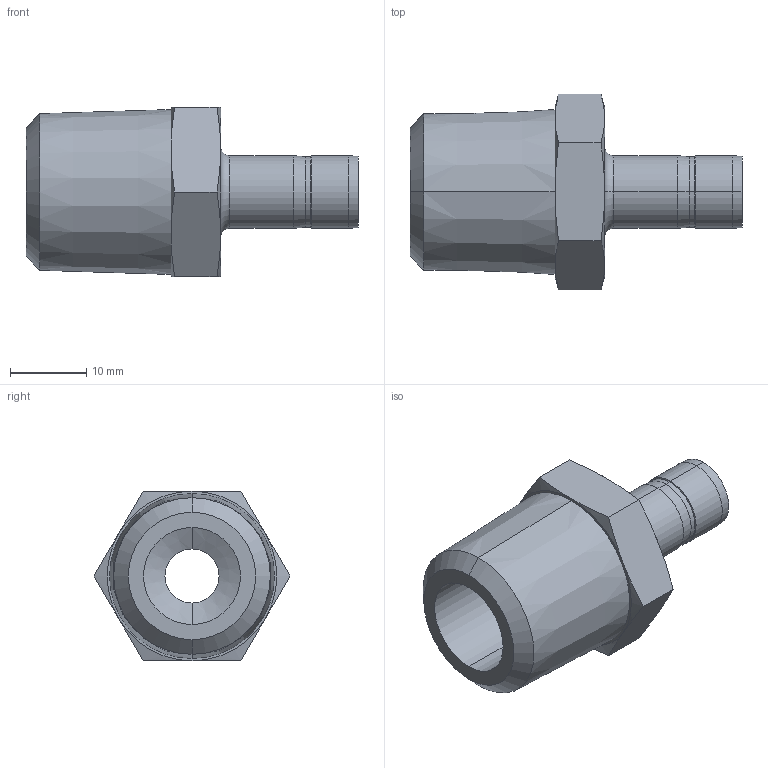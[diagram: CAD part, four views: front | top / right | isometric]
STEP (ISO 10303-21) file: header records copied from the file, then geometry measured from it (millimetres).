
FILE_DESCRIPTION (( 'STEP AP203' ), '1' );
FILE_NAME ('DHA06-08 SS.STEP', '2009-09-08T06:14:52', ( ' ' ), ( '' ), 'SwSTEP 2.0', 'SolidWorks 2008', '' );
FILE_SCHEMA (( 'CONFIG_CONTROL_DESIGN' ));
Length unit declared in the file: millimetre
Products named in the file (1): DHA06-08 SS
Bounding box: 43.5 x 25.67 x 22.23 mm (x, y, z)
Volume: 7110.6 mm3; surface area: 4208.2 mm2
Topology: 1 solids, 1 shells, 46 faces, 96 edges, 54 vertices
Faces by surface type: cone 24, cylinder 10, plane 10, torus 2
Entity records: 1357 total; most frequent: CARTESIAN_POINT 317, DIRECTION 210, ORIENTED_EDGE 192, EDGE_CURVE 96, AXIS2_PLACEMENT_3D 91, VERTEX_POINT 54, EDGE_LOOP 50, ADVANCED_FACE 46
